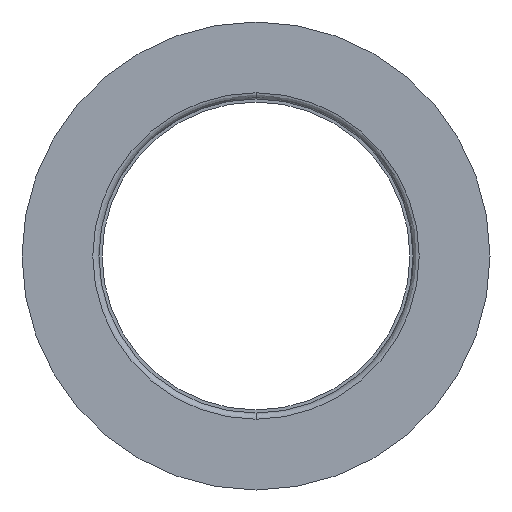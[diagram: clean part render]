
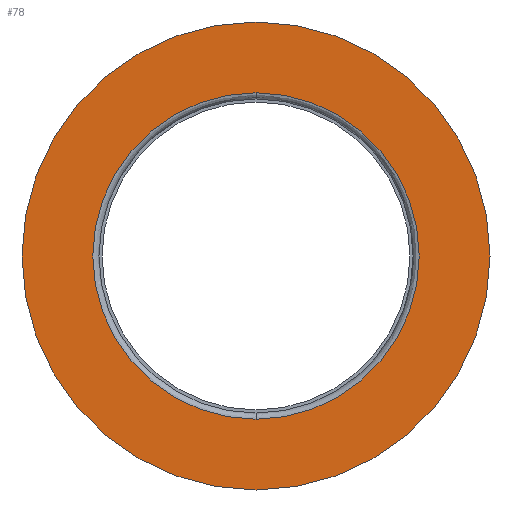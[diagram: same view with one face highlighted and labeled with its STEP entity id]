
A CAD part, left-side view. The second image highlights one B-rep face of the part: STEP entity #78.
In plain terms, the highlighted free-form (B-spline) face has degree [1, 1] with [2, 2] control points.
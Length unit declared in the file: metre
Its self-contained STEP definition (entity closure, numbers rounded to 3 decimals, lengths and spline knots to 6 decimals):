
#78 = ADVANCED_FACE( '', ( #105, #106 ), #107, .T. );
#105 = FACE_BOUND( '', #160, .T. );
#106 = FACE_OUTER_BOUND( '', #161, .T. );
#107 = B_SPLINE_SURFACE_WITH_KNOTS( '', 1, 1, ( ( #162, #163 ), ( #164, #165 ) ), .UNSPECIFIED., .F., .F., .F., ( 2, 2 ), ( 2, 2 ), ( 0., 1. ), ( 0., 1. ), .UNSPECIFIED. );
#160 = EDGE_LOOP( '', ( #339, #340 ) );
#161 = EDGE_LOOP( '', ( #341, #342 ) );
#162 = CARTESIAN_POINT( '', ( -0.06, -0.019228, -0.019228 ) );
#163 = CARTESIAN_POINT( '', ( -0.06, 0.019228, -0.019228 ) );
#164 = CARTESIAN_POINT( '', ( -0.06, -0.019228, 0.019228 ) );
#165 = CARTESIAN_POINT( '', ( -0.06, 0.019228, 0.019228 ) );
#339 = ORIENTED_EDGE( '', *, *, #487, .T. );
#340 = ORIENTED_EDGE( '', *, *, #488, .T. );
#341 = ORIENTED_EDGE( '', *, *, #489, .T. );
#342 = ORIENTED_EDGE( '', *, *, #490, .T. );
#487 = EDGE_CURVE( '', #539, #540, #541, .F. );
#488 = EDGE_CURVE( '', #540, #539, #542, .F. );
#489 = EDGE_CURVE( '', #543, #544, #545, .F. );
#490 = EDGE_CURVE( '', #544, #543, #546, .F. );
#539 = VERTEX_POINT( '', #619 );
#540 = VERTEX_POINT( '', #620 );
#541 = CIRCLE( '', #621, 0.01325 );
#542 = CIRCLE( '', #622, 0.01325 );
#543 = VERTEX_POINT( '', #623 );
#544 = VERTEX_POINT( '', #624 );
#545 = CIRCLE( '', #625, 0.019 );
#546 = CIRCLE( '', #626, 0.019 );
#619 = CARTESIAN_POINT( '', ( -0.06, 0., -0.01325 ) );
#620 = CARTESIAN_POINT( '', ( -0.06, 0., 0.01325 ) );
#621 = AXIS2_PLACEMENT_3D( '', #749, #750, #751 );
#622 = AXIS2_PLACEMENT_3D( '', #752, #753, #754 );
#623 = CARTESIAN_POINT( '', ( -0.06, 0., 0.019 ) );
#624 = CARTESIAN_POINT( '', ( -0.06, 0., -0.019 ) );
#625 = AXIS2_PLACEMENT_3D( '', #755, #756, #757 );
#626 = AXIS2_PLACEMENT_3D( '', #758, #759, #760 );
#749 = CARTESIAN_POINT( '', ( -0.06, 0., 0. ) );
#750 = DIRECTION( '', ( -1., 0., 0. ) );
#751 = DIRECTION( '', ( 0., -1., 0. ) );
#752 = CARTESIAN_POINT( '', ( -0.06, 0., 0. ) );
#753 = DIRECTION( '', ( -1., 0., 0. ) );
#754 = DIRECTION( '', ( 0., -1., 0. ) );
#755 = CARTESIAN_POINT( '', ( -0.06, 0., 0. ) );
#756 = DIRECTION( '', ( 1., 0., 0. ) );
#757 = DIRECTION( '', ( 0., 0., -1. ) );
#758 = CARTESIAN_POINT( '', ( -0.06, 0., 0. ) );
#759 = DIRECTION( '', ( 1., 0., 0. ) );
#760 = DIRECTION( '', ( 0., 0., -1. ) );
